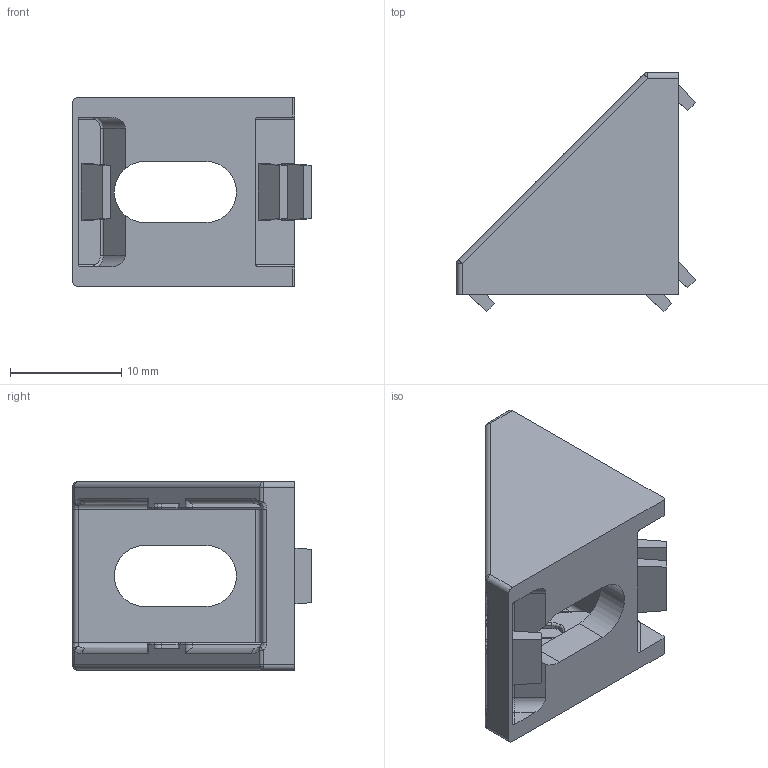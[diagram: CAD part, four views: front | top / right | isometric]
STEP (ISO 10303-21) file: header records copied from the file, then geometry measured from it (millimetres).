
FILE_DESCRIPTION (( 'STEP AP214' ), '1' );
FILE_NAME ('6.03.spb20.STEP', '2015-05-31T08:04:29', ( '' ), ( '' ), 'SwSTEP 2.0', 'SolidWorks 2015', '' );
FILE_SCHEMA (( 'AUTOMOTIVE_DESIGN' ));
Length unit declared in the file: millimetre
Products named in the file (1): 6.03.spb20
Bounding box: 21.5 x 21.5 x 17 mm (x, y, z)
Volume: 2042.8 mm3; surface area: 2207.3 mm2
Topology: 1 solids, 1 shells, 161 faces, 399 edges, 244 vertices
Faces by surface type: cylinder 63, plane 61, bspline 37
Entity records: 5260 total; most frequent: CARTESIAN_POINT 1630, ORIENTED_EDGE 798, DIRECTION 702, EDGE_CURVE 399, VERTEX_POINT 244, AXIS2_PLACEMENT_3D 243, LINE 216, VECTOR 216
